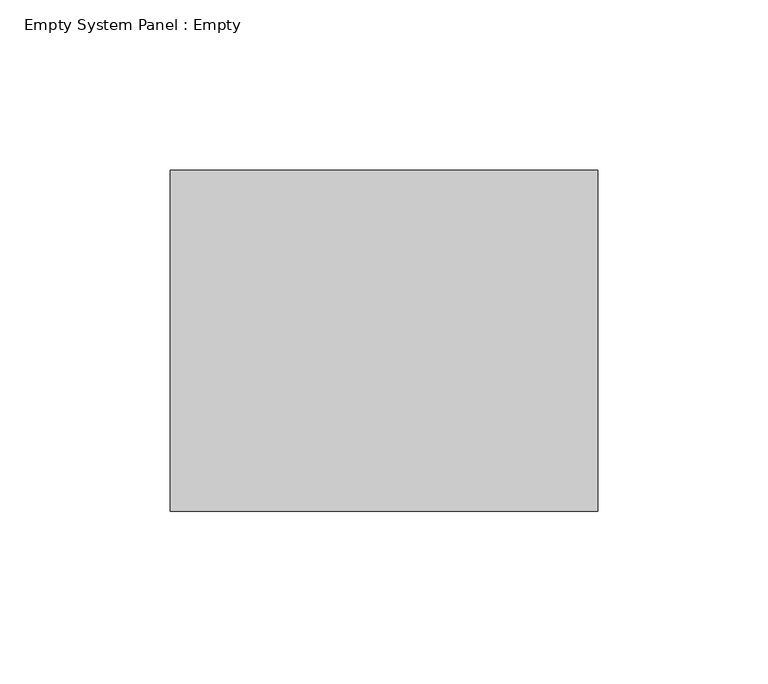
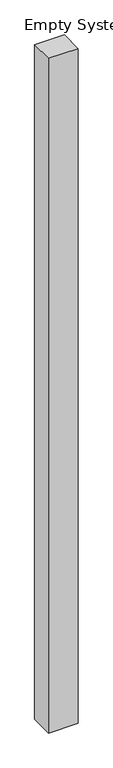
"""IFC4 building model written with IfcOpenShell, lengths in millimetres: plate geometry, Empty System Panel : Empty."""

from ifc_helpers import new_model, si_unit, origin, origin_with_axes, place, context, project, spatial, polyline, outline, extrude, source, transform, mapped, element, save


def empty_system_panel_empty_d66da160(model_context):
    return source(origin(), model_context, "Body", "SweptSolid", [
        extrude(outline(polyline([(62.6256313, -50.0), (-62.6256313, -50.0), (-62.6256313, 50.0), (62.6256313, 50.0), (62.6256313, -50.0)])), origin_with_axes(), (0.0, 0.0, 1.0), 3000.0),
    ])


if __name__ == "__main__":
    model = new_model("IFC4")
    model_context = context("Model", 3, world=origin())
    ifc_project = project(units=[si_unit("LENGTHUNIT", "METRE", prefix="MILLI")], contexts=[model_context])
    site = spatial("IfcSite", under=ifc_project)
    building = spatial("IfcBuilding", under=site)
    placement = place(None, origin())
    empty_system_panel_empty_shape = empty_system_panel_empty_d66da160(model_context)
    element("IfcPlate", 1, ObjectType="Empty System Panel : Empty", at=placement, inside=building, context=model_context, shape_type="MappedRepresentation", body=[
        mapped(empty_system_panel_empty_shape, transform((0.0, 0.0, 0.0), x_axis=(1.0, 0.0, 0.0), y_axis=(0.0, 1.0, 0.0), z_axis=(0.0, 0.0, 1.0))),
    ])
    save(model, "model.ifc")
